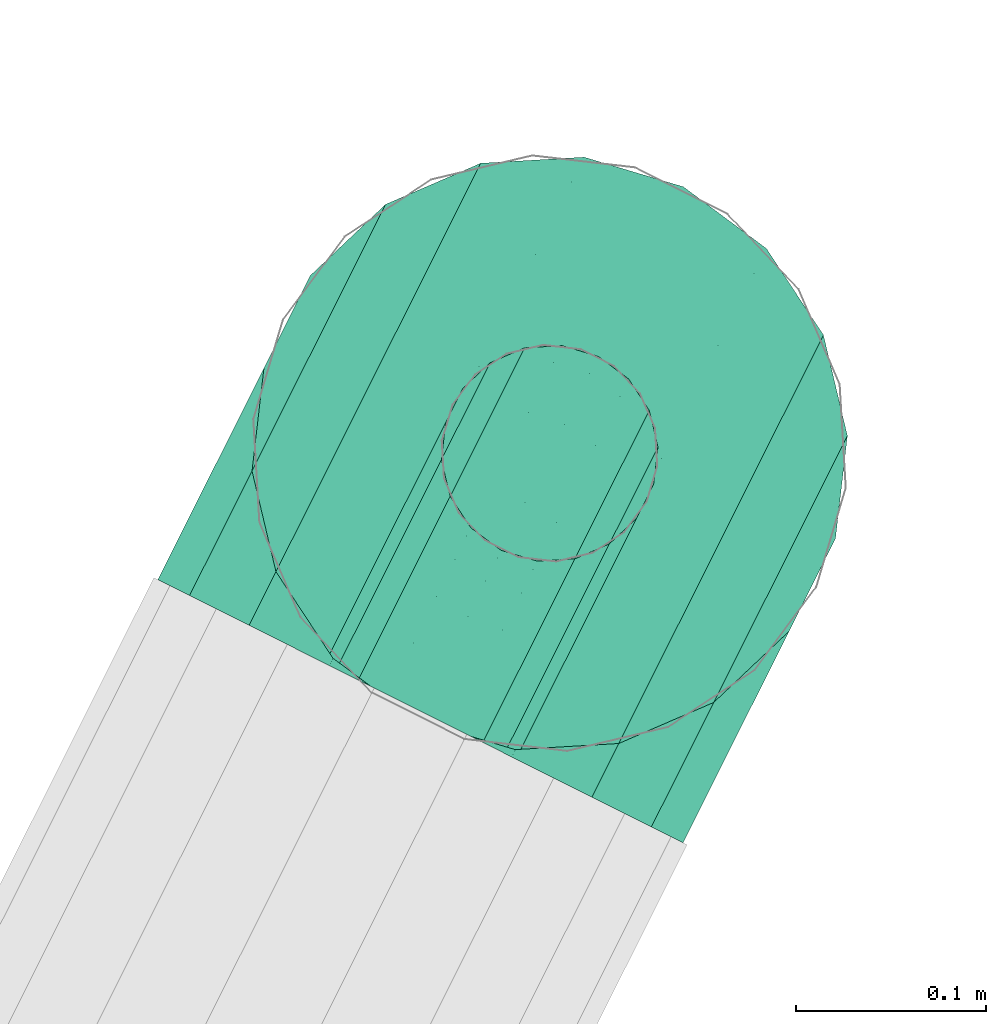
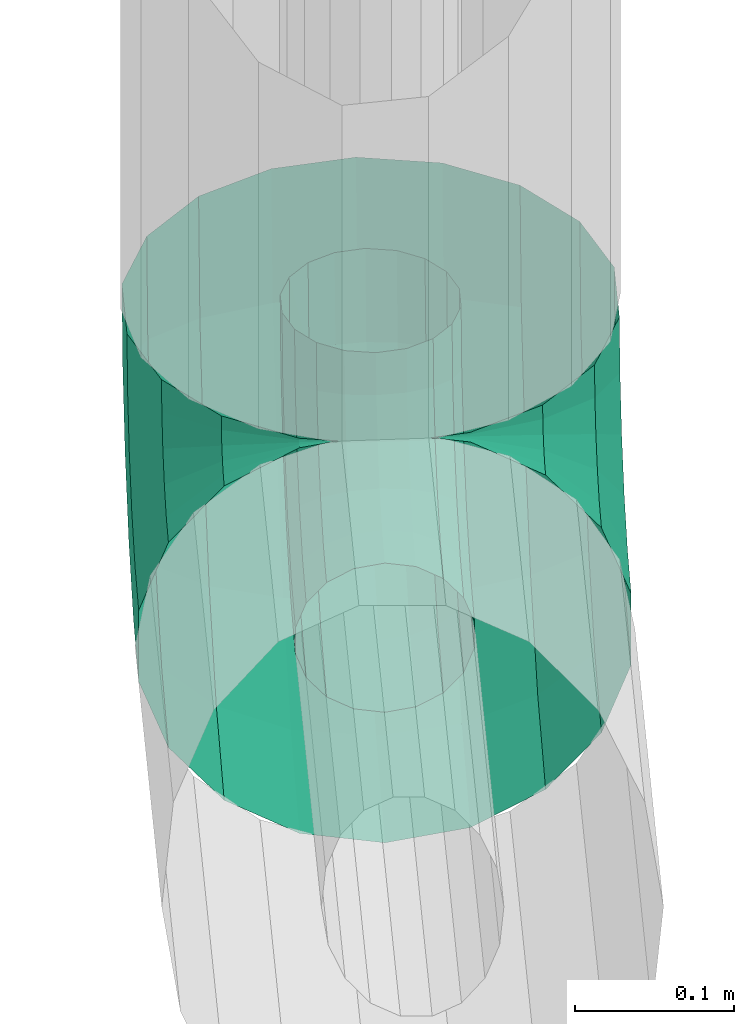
# One storey, part 5 of 11: 1 flow segment.
"""IFC2X3 building model written with IfcOpenShell, lengths in metres."""

from ifc_helpers import new_model, si_unit, derived_unit, direction, frame, origin, place, context, subcontext, project, spatial, face_set, surface_model, source, transform, mapped, material, type_object, type_shapes, element, save


model = new_model("IFC2X3")

# Units and contexts
model_context = context("Model", 3, precision=5.2338327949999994e-05, world=origin(), true_north=direction((0.0, 1.0)))
body_context = subcontext(model_context, "Body", "Model", "MODEL_VIEW")
ifc_project = project(units=[si_unit("LENGTHUNIT", "METRE"), si_unit("AREAUNIT", "SQUARE_METRE"), si_unit("VOLUMEUNIT", "CUBIC_METRE"), si_unit("MASSUNIT", "GRAM", prefix="KILO"), si_unit("PLANEANGLEUNIT", "RADIAN"), derived_unit("THERMALTRANSMITTANCEUNIT", [(si_unit("MASSUNIT", "GRAM", prefix="KILO"), 1), (si_unit("THERMODYNAMICTEMPERATUREUNIT", "KELVIN"), -1), (si_unit("TIMEUNIT", "SECOND"), -3)])], contexts=[model_context])

# Site, building, storey
site_placement = place(None, frame((0.0, 0.0, 0.0), z_axis=(0.0, 0.0, 1.0), x_axis=(0.8939966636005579, -0.4480736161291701, 0.0)))
site = spatial("IfcSite", under=ifc_project, at=site_placement, Name="Default", CompositionType="ELEMENT")
building_placement = place(site_placement, origin())
building = spatial("IfcBuilding", under=site, at=building_placement, CompositionType="ELEMENT")
storey_placement = place(building_placement, frame((0.0, 0.0, -2.7499999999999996)))
storey = spatial("IfcBuildingStorey", under=building, at=storey_placement, Name="1. Untergeschoss", CompositionType="ELEMENT", Elevation=-2.7499999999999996)

# Flow segment
ifc_material = material(Name="IfcSurfaceStyle #9317")
distribution_element_type = type_object("IfcDistributionElementType", Name="Rohrbogen 293576:Rohrbogen 293576", material=ifc_material)
shared_shape = source(origin(), body_context, "Body", "SurfaceModel", [
    surface_model("IfcFaceBasedSurfaceModel", [(25.095700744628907, 0.659213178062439, -0.444630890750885), (25.095700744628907, 0.6694497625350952, -0.37999998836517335), (25.115246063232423, 0.6559353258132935, -0.4435658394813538), (25.115246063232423, 0.6660031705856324, -0.37999998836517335), (25.095700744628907, 0.6295056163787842, -0.5029352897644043), (25.115246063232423, 0.6267173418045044, -0.5009094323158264), (25.095700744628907, 0.5832350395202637, -0.5492059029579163), (25.115246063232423, 0.5812091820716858, -0.5464175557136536), (25.095700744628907, 0.5249306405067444, -0.5789134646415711), (25.115246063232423, 0.5238655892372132, -0.5756355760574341), (25.095700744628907, 0.46029973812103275, -0.5891500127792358), (25.115246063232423, 0.46029973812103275, -0.585703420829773), (25.132435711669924, 0.6560792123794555, -0.37999998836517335), (25.132435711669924, 0.6464970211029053, -0.4404991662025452), (25.132435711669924, 0.6186886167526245, -0.4950762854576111), (25.132435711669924, 0.575375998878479, -0.5383889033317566), (25.132435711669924, 0.5207989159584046, -0.5661973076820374), (25.132435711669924, 0.46029973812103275, -0.5757794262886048), (25.145193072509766, 0.6320367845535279, -0.43580076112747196), (25.145193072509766, 0.6408747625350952, -0.37999998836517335), (25.145193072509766, 0.6063879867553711, -0.4861393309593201), (25.145193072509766, 0.5664390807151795, -0.5260882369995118), (25.145193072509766, 0.5161004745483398, -0.5517370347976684), (25.145193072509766, 0.46029973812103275, -0.5605750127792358), (25.15198103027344, 0.622223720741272, -0.37999998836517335), (25.15198103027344, 0.614298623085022, -0.430037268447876), (25.15198103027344, 0.5912990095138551, -0.47517651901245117), (25.15198103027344, 0.5554762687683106, -0.5109992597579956), (25.15198103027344, 0.5103370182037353, -0.5339988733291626), (25.15198103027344, 0.46029973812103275, -0.5419240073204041), (25.15198103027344, 0.5954220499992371, -0.42390388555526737), (25.15198103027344, 0.6023757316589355, -0.37999998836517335), (25.15198103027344, 0.5752416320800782, -0.4635101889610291), (25.15198103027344, 0.5438099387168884, -0.4949419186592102), (25.15198103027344, 0.5042036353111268, -0.5151223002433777), (25.15198103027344, 0.46029973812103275, -0.5220760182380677), (25.145193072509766, 0.5776838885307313, -0.41814042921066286), (25.145193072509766, 0.5837247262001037, -0.37999998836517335), (25.145193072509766, 0.560152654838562, -0.4525473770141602), (25.145193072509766, 0.5328471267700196, -0.4798529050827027), (25.145193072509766, 0.49844017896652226, -0.49738413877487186), (25.145193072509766, 0.46029973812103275, -0.5034250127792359), (25.132435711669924, 0.5632236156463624, -0.41344198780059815), (25.132435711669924, 0.5685203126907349, -0.37999998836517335), (25.132435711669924, 0.5478520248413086, -0.44361045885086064), (25.132435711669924, 0.5239101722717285, -0.4675522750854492), (25.132435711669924, 0.49374173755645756, -0.48292386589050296), (25.132435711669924, 0.46029973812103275, -0.48822056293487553), (25.115246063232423, 0.5537853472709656, -0.41037531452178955), (25.115246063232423, 0.5585963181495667, -0.37999998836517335), (25.115246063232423, 0.5398233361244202, -0.43777727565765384), (25.115246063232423, 0.5180770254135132, -0.45952358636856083), (25.115246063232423, 0.49067506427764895, -0.4734855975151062), (25.115246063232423, 0.46029973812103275, -0.4782965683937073), (25.095700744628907, 0.5551497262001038, -0.37999998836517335), (25.095700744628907, 0.5505074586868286, -0.40931026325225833), (25.095700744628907, 0.5370349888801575, -0.4357514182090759), (25.095700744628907, 0.5160511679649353, -0.45673527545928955), (25.095700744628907, 0.4896100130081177, -0.47020770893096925), (25.095700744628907, 0.46029973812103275, -0.4748500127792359), (25.076153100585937, 0.5537853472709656, -0.41037531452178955), (25.076153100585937, 0.5585963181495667, -0.37999998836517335), (25.076153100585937, 0.5398233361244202, -0.43777727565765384), (25.076153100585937, 0.5180770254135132, -0.45952358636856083), (25.076153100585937, 0.49067506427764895, -0.4734855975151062), (25.076153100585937, 0.46029973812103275, -0.4782965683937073), (25.058965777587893, 0.5685203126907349, -0.37999998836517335), (25.058965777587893, 0.5632236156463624, -0.41344198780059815), (25.058965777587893, 0.5478520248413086, -0.44361045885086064), (25.058965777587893, 0.5239101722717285, -0.4675522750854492), (25.058965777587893, 0.49374173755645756, -0.48292386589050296), (25.058965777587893, 0.46029973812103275, -0.48822056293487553), (25.046206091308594, 0.5837247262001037, -0.37999998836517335), (25.046206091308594, 0.5776838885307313, -0.41814042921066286), (25.046206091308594, 0.560152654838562, -0.4525473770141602), (25.046206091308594, 0.5328471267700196, -0.4798529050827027), (25.046206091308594, 0.49844017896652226, -0.49738413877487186), (25.046206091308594, 0.46029973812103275, -0.5034250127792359), (25.039418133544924, 0.6023757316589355, -0.37999998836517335), (25.039418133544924, 0.5954220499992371, -0.42390388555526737), (25.039418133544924, 0.5752416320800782, -0.4635101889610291), (25.039418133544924, 0.5438099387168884, -0.4949419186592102), (25.039418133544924, 0.5042036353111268, -0.5151223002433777), (25.039418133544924, 0.46029973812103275, -0.5220760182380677), (25.039418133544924, 0.622223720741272, -0.37999998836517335), (25.039418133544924, 0.614298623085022, -0.430037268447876), (25.039418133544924, 0.5912990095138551, -0.47517651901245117), (25.039418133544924, 0.5554762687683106, -0.5109992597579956), (25.039418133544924, 0.5103370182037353, -0.5339988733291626), (25.039418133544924, 0.46029973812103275, -0.5419240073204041), (25.046206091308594, 0.6320367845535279, -0.43580076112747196), (25.046206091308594, 0.6408747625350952, -0.37999998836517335), (25.046206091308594, 0.6063879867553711, -0.4861393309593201), (25.046206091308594, 0.5664390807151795, -0.5260882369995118), (25.046206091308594, 0.5161004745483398, -0.5517370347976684), (25.046206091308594, 0.46029973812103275, -0.5605750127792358), (25.058965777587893, 0.6464970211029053, -0.4404991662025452), (25.058965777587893, 0.6560792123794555, -0.37999998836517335), (25.058965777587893, 0.6186886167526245, -0.4950762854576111), (25.058965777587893, 0.575375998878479, -0.5383889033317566), (25.058965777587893, 0.5207989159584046, -0.5661973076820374), (25.058965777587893, 0.46029973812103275, -0.5757794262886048), (25.076153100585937, 0.6660031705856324, -0.37999998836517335), (25.076153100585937, 0.6559353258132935, -0.4435658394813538), (25.076153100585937, 0.6267173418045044, -0.5009094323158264), (25.076153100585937, 0.5812091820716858, -0.5464175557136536), (25.095700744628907, 0.7543188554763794, -0.47553260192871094), (25.095700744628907, 0.7694497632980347, -0.37999998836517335), (25.149448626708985, 0.7599724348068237, -0.37999998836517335), (25.149448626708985, 0.745305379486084, -0.4726039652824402), (25.095700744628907, 0.7104073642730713, -0.5617138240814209), (25.149448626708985, 0.7027400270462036, -0.5561431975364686), (25.095700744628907, 0.6420135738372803, -0.630107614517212), (25.149448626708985, 0.6364429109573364, -0.6224402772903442), (25.095700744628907, 0.5558323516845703, -0.67401910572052), (25.149448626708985, 0.5529036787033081, -0.6650057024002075), (25.095700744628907, 0.46029973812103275, -0.6891500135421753), (25.149448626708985, 0.46029973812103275, -0.6796726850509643), (25.19671318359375, 0.7193522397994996, -0.4641712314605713), (25.19671318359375, 0.7326836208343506, -0.37999998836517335), (25.19671318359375, 0.680662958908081, -0.5401032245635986), (25.19671318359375, 0.620402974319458, -0.6003632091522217), (25.19671318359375, 0.5444709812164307, -0.6390524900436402), (25.19671318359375, 0.46029973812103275, -0.6523838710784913), (25.231794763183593, 0.6795896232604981, -0.4512515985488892), (25.231794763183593, 0.690874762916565, -0.37999998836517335), (25.231794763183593, 0.6468388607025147, -0.5155285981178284), (25.231794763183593, 0.5958283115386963, -0.5665391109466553), (25.231794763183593, 0.5315513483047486, -0.5992898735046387), (25.231794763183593, 0.46029973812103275, -0.6105750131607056), (25.250463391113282, 0.6308135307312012, -0.43540329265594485), (25.250463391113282, 0.6395885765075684, -0.37999998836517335), (25.250463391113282, 0.6053474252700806, -0.4853833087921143), (25.250463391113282, 0.5656830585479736, -0.5250477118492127), (25.250463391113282, 0.5157030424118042, -0.5505137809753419), (25.250463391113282, 0.46029973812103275, -0.559288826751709), (25.250463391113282, 0.5789071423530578, -0.4185378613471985), (25.250463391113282, 0.5850109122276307, -0.37999998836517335), (25.250463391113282, 0.5611932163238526, -0.453303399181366), (25.250463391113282, 0.5336031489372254, -0.4808934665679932), (25.250463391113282, 0.4988376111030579, -0.4986073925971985), (25.250463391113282, 0.46029973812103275, -0.5047111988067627), (25.231794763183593, 0.5337247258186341, -0.37999998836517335), (25.231794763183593, 0.530131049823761, -0.40268955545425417), (25.231794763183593, 0.51970181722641, -0.42315814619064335), (25.231794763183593, 0.5034578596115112, -0.43940206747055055), (25.231794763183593, 0.4829893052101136, -0.4498313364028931), (25.231794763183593, 0.46029973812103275, -0.4534250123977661), (25.19671318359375, 0.4919158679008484, -0.37999998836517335), (25.19671318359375, 0.490368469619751, -0.38976992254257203), (25.19671318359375, 0.48587771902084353, -0.3985834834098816), (25.19671318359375, 0.478883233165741, -0.40557796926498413), (25.19671318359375, 0.47006967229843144, -0.4100687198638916), (25.19671318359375, 0.46029973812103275, -0.41161611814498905), (25.149448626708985, 0.4646270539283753, -0.37999998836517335), (25.149448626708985, 0.4644152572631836, -0.3813372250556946), (25.149448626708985, 0.46380061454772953, -0.38254351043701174), (25.149448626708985, 0.46284326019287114, -0.3835008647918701), (25.149448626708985, 0.4616369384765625, -0.38411550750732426), (25.149448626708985, 0.46029973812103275, -0.38432730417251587), (25.124905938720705, 0.46029955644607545, -0.3799999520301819), (25.12557333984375, 0.46029955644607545, -0.3807431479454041), (25.06649322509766, 0.46029955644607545, -0.3799999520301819), (25.06582582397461, 0.46029955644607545, -0.3807431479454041), (25.041950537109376, 0.4644152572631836, -0.3813372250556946), (25.041950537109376, 0.4646270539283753, -0.37999998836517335), (25.041950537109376, 0.46380061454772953, -0.38254351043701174), (25.041950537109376, 0.46284326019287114, -0.3835008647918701), (25.041950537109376, 0.4616369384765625, -0.38411550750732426), (25.041950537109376, 0.46029973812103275, -0.38432730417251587), (24.99468598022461, 0.4919158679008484, -0.37999998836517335), (24.99468598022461, 0.490368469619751, -0.38976992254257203), (24.99468598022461, 0.48587771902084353, -0.3985834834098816), (24.99468598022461, 0.478883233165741, -0.40557796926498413), (24.99468598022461, 0.47006967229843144, -0.4100687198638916), (24.99468598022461, 0.46029973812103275, -0.41161611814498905), (24.959604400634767, 0.5337247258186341, -0.37999998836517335), (24.959604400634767, 0.530131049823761, -0.40268955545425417), (24.959604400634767, 0.51970181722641, -0.42315814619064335), (24.959604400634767, 0.5034578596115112, -0.43940206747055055), (24.959604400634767, 0.4829893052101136, -0.4498313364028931), (24.959604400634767, 0.46029973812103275, -0.4534250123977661), (24.94093809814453, 0.5850109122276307, -0.37999998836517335), (24.94093809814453, 0.5789071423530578, -0.4185378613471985), (24.94093809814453, 0.5611932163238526, -0.453303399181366), (24.94093809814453, 0.5336031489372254, -0.4808934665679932), (24.94093809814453, 0.4988376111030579, -0.4986073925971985), (24.94093809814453, 0.46029973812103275, -0.5047111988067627), (24.94093809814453, 0.6395885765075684, -0.37999998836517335), (24.94093809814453, 0.6308135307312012, -0.43540329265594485), (24.94093809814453, 0.6053474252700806, -0.4853833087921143), (24.94093809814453, 0.5656830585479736, -0.5250477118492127), (24.94093809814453, 0.5157030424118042, -0.5505137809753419), (24.94093809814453, 0.46029973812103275, -0.559288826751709), (24.959604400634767, 0.690874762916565, -0.37999998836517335), (24.959604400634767, 0.6795896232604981, -0.4512515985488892), (24.959604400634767, 0.6468388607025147, -0.5155285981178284), (24.959604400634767, 0.5958283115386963, -0.5665391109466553), (24.959604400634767, 0.5315513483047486, -0.5992898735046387), (24.959604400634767, 0.46029973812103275, -0.6105750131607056), (24.99468598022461, 0.7326836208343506, -0.37999998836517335), (24.99468598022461, 0.7193522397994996, -0.4641712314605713), (24.99468598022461, 0.680662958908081, -0.5401032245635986), (24.99468598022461, 0.620402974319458, -0.6003632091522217), (24.99468598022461, 0.5444709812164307, -0.6390524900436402), (24.99468598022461, 0.46029973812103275, -0.6523838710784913), (25.041950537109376, 0.7599724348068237, -0.37999998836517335), (25.041950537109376, 0.745305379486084, -0.4726039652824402), (25.041950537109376, 0.7027400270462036, -0.5561431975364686), (25.041950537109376, 0.6364429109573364, -0.6224402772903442), (25.041950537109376, 0.5529036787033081, -0.6650057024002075), (25.041950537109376, 0.46029973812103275, -0.6796726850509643), (25.076153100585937, 0.5238655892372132, -0.5756355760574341), (25.076153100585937, 0.46029973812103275, -0.585703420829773)], [face_set([[[0, 1, 2]], [[3, 2, 1]], [[4, 0, 5]], [[2, 5, 0]], [[6, 4, 7]], [[5, 7, 4]], [[8, 6, 7]], [[7, 9, 8]], [[10, 8, 9]], [[9, 11, 10]], [[2, 3, 12]], [[12, 13, 2]], [[5, 2, 14]], [[13, 14, 2]], [[7, 5, 15]], [[14, 15, 5]], [[9, 7, 16]], [[15, 16, 7]], [[11, 9, 17]], [[16, 17, 9]], [[13, 12, 18]], [[19, 18, 12]], [[14, 13, 20]], [[18, 20, 13]], [[15, 14, 21]], [[20, 21, 14]], [[16, 15, 21]], [[21, 22, 16]], [[17, 16, 22]], [[22, 23, 17]], [[18, 19, 24]], [[24, 25, 18]], [[20, 18, 25]], [[25, 26, 20]], [[21, 20, 26]], [[26, 27, 21]], [[22, 21, 27]], [[27, 28, 22]], [[23, 22, 28]], [[28, 29, 23]], [[25, 24, 30]], [[31, 30, 24]], [[26, 25, 32]], [[30, 32, 25]], [[27, 26, 32]], [[32, 33, 27]], [[28, 27, 33]], [[33, 34, 28]], [[29, 28, 35]], [[34, 35, 28]], [[30, 31, 36]], [[37, 36, 31]], [[32, 30, 38]], [[36, 38, 30]], [[33, 32, 38]], [[38, 39, 33]], [[34, 33, 40]], [[39, 40, 33]], [[35, 34, 41]], [[40, 41, 34]], [[36, 37, 42]], [[43, 42, 37]], [[38, 36, 44]], [[42, 44, 36]], [[39, 38, 45]], [[44, 45, 38]], [[40, 39, 46]], [[45, 46, 39]], [[41, 40, 47]], [[46, 47, 40]], [[42, 43, 48]], [[49, 48, 43]], [[44, 42, 48]], [[48, 50, 44]], [[45, 44, 50]], [[50, 51, 45]], [[46, 45, 51]], [[51, 52, 46]], [[47, 46, 52]], [[52, 53, 47]], [[48, 49, 54]], [[54, 55, 48]], [[50, 48, 56]], [[55, 56, 48]], [[51, 50, 56]], [[56, 57, 51]], [[52, 51, 57]], [[57, 58, 52]], [[53, 52, 58]], [[58, 59, 53]], [[55, 54, 60]], [[61, 60, 54]], [[56, 55, 62]], [[60, 62, 55]], [[57, 56, 63]], [[62, 63, 56]], [[58, 57, 64]], [[63, 64, 57]], [[59, 58, 65]], [[64, 65, 58]], [[60, 61, 66]], [[66, 67, 60]], [[62, 60, 68]], [[67, 68, 60]], [[63, 62, 69]], [[68, 69, 62]], [[64, 63, 70]], [[69, 70, 63]], [[65, 64, 71]], [[70, 71, 64]], [[67, 66, 72]], [[72, 73, 67]], [[68, 67, 74]], [[73, 74, 67]], [[69, 68, 75]], [[74, 75, 68]], [[70, 69, 76]], [[75, 76, 69]], [[71, 70, 76]], [[76, 77, 71]], [[73, 72, 78]], [[78, 79, 73]], [[74, 73, 79]], [[79, 80, 74]], [[75, 74, 81]], [[80, 81, 74]], [[76, 75, 81]], [[81, 82, 76]], [[77, 76, 82]], [[82, 83, 77]], [[79, 78, 84]], [[84, 85, 79]], [[80, 79, 85]], [[85, 86, 80]], [[81, 80, 87]], [[86, 87, 80]], [[82, 81, 88]], [[87, 88, 81]], [[83, 82, 88]], [[88, 89, 83]], [[85, 84, 90]], [[91, 90, 84]], [[86, 85, 92]], [[90, 92, 85]], [[87, 86, 93]], [[92, 93, 86]], [[88, 87, 94]], [[93, 94, 87]], [[89, 88, 95]], [[94, 95, 88]], [[90, 91, 96]], [[97, 96, 91]], [[92, 90, 96]], [[96, 98, 92]], [[93, 92, 98]], [[98, 99, 93]], [[94, 93, 100]], [[99, 100, 93]], [[95, 94, 101]], [[100, 101, 94]], [[96, 97, 102]], [[102, 103, 96]], [[98, 96, 103]], [[103, 104, 98]], [[99, 98, 104]], [[104, 105, 99]], [[103, 102, 1]], [[1, 0, 103]], [[104, 103, 4]], [[0, 4, 103]], [[105, 104, 4]], [[4, 6, 105]], [[106, 107, 108]], [[108, 109, 106]], [[110, 106, 111]], [[109, 111, 106]], [[112, 110, 113]], [[111, 113, 110]], [[114, 112, 113]], [[113, 115, 114]], [[116, 114, 115]], [[115, 117, 116]], [[109, 108, 118]], [[119, 118, 108]], [[111, 109, 120]], [[118, 120, 109]], [[113, 111, 121]], [[120, 121, 111]], [[115, 113, 121]], [[121, 122, 115]], [[117, 115, 122]], [[122, 123, 117]], [[118, 119, 124]], [[125, 124, 119]], [[120, 118, 124]], [[124, 126, 120]], [[121, 120, 126]], [[126, 127, 121]], [[122, 121, 127]], [[127, 128, 122]], [[123, 122, 128]], [[128, 129, 123]], [[124, 125, 130]], [[131, 130, 125]], [[126, 124, 132]], [[130, 132, 124]], [[127, 126, 132]], [[132, 133, 127]], [[128, 127, 133]], [[133, 134, 128]], [[129, 128, 135]], [[134, 135, 128]], [[130, 131, 136]], [[137, 136, 131]], [[132, 130, 136]], [[136, 138, 132]], [[133, 132, 138]], [[138, 139, 133]], [[134, 133, 139]], [[139, 140, 134]], [[135, 134, 140]], [[140, 141, 135]], [[136, 137, 142]], [[142, 143, 136]], [[138, 136, 143]], [[143, 144, 138]], [[139, 138, 144]], [[144, 145, 139]], [[140, 139, 145]], [[145, 146, 140]], [[141, 140, 146]], [[146, 147, 141]], [[143, 142, 148]], [[148, 149, 143]], [[144, 143, 150]], [[149, 150, 143]], [[145, 144, 151]], [[150, 151, 144]], [[146, 145, 151]], [[151, 152, 146]], [[147, 146, 152]], [[152, 153, 147]], [[149, 148, 154]], [[154, 155, 149]], [[150, 149, 156]], [[155, 156, 149]], [[151, 150, 156]], [[156, 157, 151]], [[152, 151, 157]], [[157, 158, 152]], [[153, 152, 158]], [[158, 159, 153]], [[160, 155, 161]], [[160, 161, 154]], [[155, 154, 161]], [[156, 155, 160]], [[157, 156, 160]], [[158, 157, 160]], [[159, 158, 160]], [[162, 163, 164]], [[165, 164, 163]], [[163, 162, 165]], [[164, 166, 162]], [[162, 166, 167]], [[167, 168, 162]], [[168, 169, 162]], [[164, 165, 170]], [[170, 171, 164]], [[166, 164, 171]], [[171, 172, 166]], [[167, 166, 173]], [[172, 173, 166]], [[168, 167, 174]], [[173, 174, 167]], [[169, 168, 175]], [[174, 175, 168]], [[171, 170, 176]], [[176, 177, 171]], [[172, 171, 177]], [[177, 178, 172]], [[173, 172, 178]], [[178, 179, 173]], [[174, 173, 180]], [[179, 180, 173]], [[175, 174, 180]], [[180, 181, 175]], [[177, 176, 182]], [[182, 183, 177]], [[178, 177, 184]], [[183, 184, 177]], [[179, 178, 185]], [[184, 185, 178]], [[180, 179, 185]], [[185, 186, 180]], [[181, 180, 187]], [[186, 187, 180]], [[183, 182, 188]], [[188, 189, 183]], [[184, 183, 190]], [[189, 190, 183]], [[185, 184, 191]], [[190, 191, 184]], [[186, 185, 192]], [[191, 192, 185]], [[187, 186, 193]], [[192, 193, 186]], [[189, 188, 194]], [[194, 195, 189]], [[190, 189, 195]], [[195, 196, 190]], [[191, 190, 197]], [[196, 197, 190]], [[192, 191, 198]], [[197, 198, 191]], [[193, 192, 198]], [[198, 199, 193]], [[195, 194, 200]], [[200, 201, 195]], [[196, 195, 202]], [[201, 202, 195]], [[197, 196, 203]], [[202, 203, 196]], [[198, 197, 204]], [[203, 204, 197]], [[199, 198, 205]], [[204, 205, 198]], [[201, 200, 206]], [[206, 207, 201]], [[202, 201, 208]], [[207, 208, 201]], [[203, 202, 208]], [[208, 209, 203]], [[204, 203, 209]], [[209, 210, 204]], [[205, 204, 211]], [[210, 211, 204]], [[207, 206, 107]], [[107, 106, 207]], [[208, 207, 110]], [[106, 110, 207]], [[209, 208, 112]], [[110, 112, 208]], [[210, 209, 114]], [[112, 114, 209]], [[211, 210, 116]], [[114, 116, 210]], [[100, 99, 212]], [[105, 212, 99]], [[101, 100, 213]], [[212, 213, 100]], [[212, 105, 6]], [[6, 8, 212]], [[213, 212, 8]], [[8, 10, 213]]])]),
])
type_shapes(distribution_element_type, [shared_shape])
flow_segment_placement = place(storey_placement, frame((0.0, 0.0, 2.7499999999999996)))
element("IfcFlowSegment", 1, at=flow_segment_placement, inside=storey, type_object=distribution_element_type, material=ifc_material, Name="Rohrbogen", ObjectType="Rohrbogen", context=body_context, shape_type="MappedRepresentation", body=[
    mapped(shared_shape, transform((0.0, 0.0, 0.0), scale=1.0)),
])

save(model, "model.ifc")
